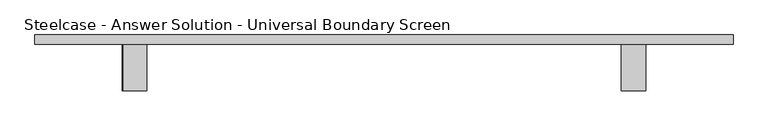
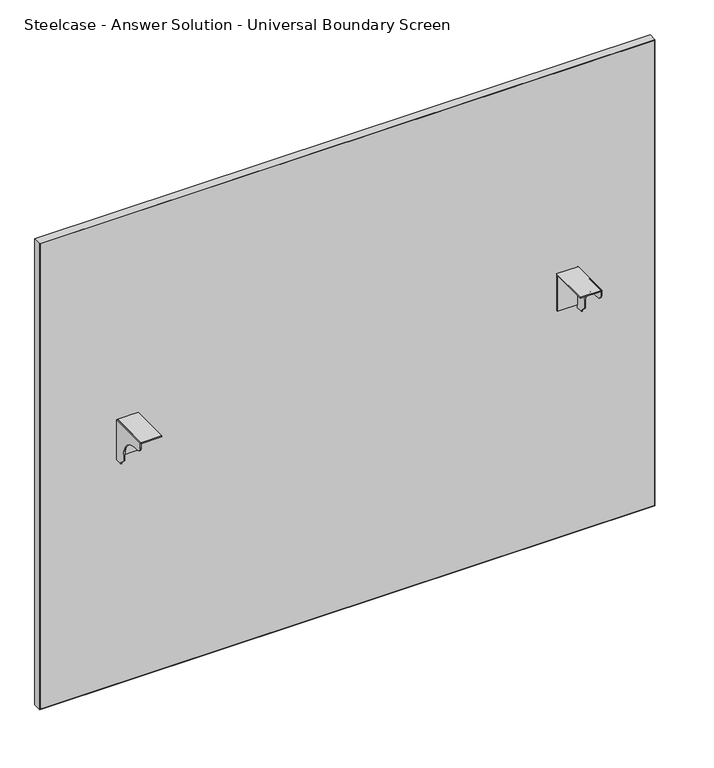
"""IFC4 building model written with IfcOpenShell, lengths in millimetres: furniture geometry, Steelcase - Answer Solution - Universal Boundary Screen : 48H x 60W."""

from ifc_helpers import new_model, si_unit, point, frame, frame_2d, origin, place, context, project, spatial, polyline, circle_curve, trimmed, segment, composite_curve, outline, extrude, source, transform, mapped, element, save


def steelcase_answer_solution_universal_boundary_screen_b5d53eab(model_context):
    return source(origin(), model_context, "Body", "SweptSolid", [
        extrude(outline(polyline([(-103.1670434, 689.3558876), (-103.1670434, 692.1499758), (-1.5668826, 692.1499758), (-1.5668826, 595.5029317), (-4.1079736, 595.5029317), (-4.1079736, 689.3558876), (-103.1670434, 689.3558876)])), frame((1048.2336711, 0.0, 0.0), z_axis=(1.0, 0.0, 0.0), x_axis=(0.0, 1.0, 0.0)), (0.0, 0.0, 1.0), 53.3444116),
        extrude(outline(composite_curve([segment(polyline([(-103.1670434, 679.2814802), (-103.1670434, 692.1499758), (-1.5668826, 692.1499758), (-1.5668826, 586.9634093), (-19.8232934, 586.9634093), (-19.8232934, 589.7574248), (-32.0458032, 601.9799346), (-32.0458032, 615.7814802)]), True, "CONTINUOUS"), segment(trimmed(circle_curve(frame_2d((-82.8458032, 615.7814802)), 50.8), [point((-32.0458032, 615.7814802))], [point((-82.8458032, 666.5814802))], True, "CARTESIAN"), True, "CONTINUOUS"), segment(polyline([(-82.8458032, 666.5814802), (-90.4670434, 666.5814802)]), True, "CONTINUOUS"), segment(trimmed(circle_curve(frame_2d((-90.4670434, 679.2814802)), 12.7), [point((-90.4670434, 666.5814802))], [point((-103.1670434, 679.2814802))], False, "CARTESIAN"), True, "CONTINUOUS")], self_intersect=False)), frame((1099.0328959, 0.0, 0.0), z_axis=(1.0, 0.0, 0.0), x_axis=(0.0, 1.0, 0.0)), (0.0, 0.0, 1.0), 2.5451868),
        extrude(outline(polyline([(-103.1670434, 689.3558876), (-103.1670434, 692.1499758), (-1.5668826, 692.1499758), (-1.5668826, 595.5029317), (-4.1079736, 595.5029317), (-4.1079736, 689.3558876), (-103.1670434, 689.3558876)])), frame((-38.8767306, 0.0, 0.0), z_axis=(1.0, 0.0, 0.0), x_axis=(0.0, 1.0, 0.0)), (0.0, 0.0, 1.0), 50.7992249),
        extrude(outline(composite_curve([segment(polyline([(-103.1670434, 679.2814802), (-103.1670434, 692.1499758), (-1.5668826, 692.1499758), (-1.5668826, 586.9634093), (-19.8232934, 586.9634093), (-19.8232934, 589.7574248), (-32.0458032, 601.9799346), (-32.0458032, 615.7814802)]), True, "CONTINUOUS"), segment(trimmed(circle_curve(frame_2d((-82.8458032, 615.7814802)), 50.8), [point((-32.0458032, 615.7814802))], [point((-82.8458032, 666.5814802))], True, "CARTESIAN"), True, "CONTINUOUS"), segment(polyline([(-82.8458032, 666.5814802), (-90.4670434, 666.5814802)]), True, "CONTINUOUS"), segment(trimmed(circle_curve(frame_2d((-90.4670434, 679.2814802)), 12.7), [point((-90.4670434, 666.5814802))], [point((-103.1670434, 679.2814802))], False, "CARTESIAN"), True, "CONTINUOUS")], self_intersect=False)), frame((-41.4219173, 0.0, 0.0), z_axis=(1.0, 0.0, 0.0), x_axis=(0.0, 1.0, 0.0)), (0.0, 0.0, 1.0), 2.5451868),
        extrude(outline(polyline([(-230.9293422, 18.9055112), (1291.0855076, 18.9055112), (1291.0855076, -1.5668826), (-230.9293422, -1.5668826), (-230.9293422, 18.9055112)])), frame((0.0, 0.0, 1.016), z_axis=(0.0, 0.0, 1.0), x_axis=(1.0, 0.0, 0.0)), (0.0, 0.0, 1.0), 1217.1914249),
        extrude(outline(polyline([(1219.2, 1292.0780827), (1219.2, -231.9219173), (0.0, -231.9219173), (0.0, 1292.0780827), (1219.2, 1292.0780827)]), holes=[polyline([(1218.2074249, 1291.0855076), (1.016, 1291.0855076), (1.016, -230.9293422), (1218.2074249, -230.9293422), (1218.2074249, 1291.0855076)])]), frame((0.0, -1.5668826, 0.0), z_axis=(0.0, 1.0, 0.0), x_axis=(0.0, 0.0, 1.0)), (0.0, 0.0, 1.0), 20.4723938),
    ])


if __name__ == "__main__":
    model = new_model("IFC4")
    model_context = context("Model", 3, world=origin())
    ifc_project = project(units=[si_unit("LENGTHUNIT", "METRE", prefix="MILLI")], contexts=[model_context])
    site = spatial("IfcSite", under=ifc_project)
    building = spatial("IfcBuilding", under=site)
    placement = place(None, origin())
    steelcase_answer_solution_universal_boundary_screen_shape = steelcase_answer_solution_universal_boundary_screen_b5d53eab(model_context)
    element("IfcFurniture", 1, ObjectType="Steelcase - Answer Solution - Universal Boundary Screen : 48H x 60W", at=placement, inside=building, context=model_context, shape_type="MappedRepresentation", body=[
        mapped(steelcase_answer_solution_universal_boundary_screen_shape, transform((0.0, 0.0, 0.0), x_axis=(1.0, 0.0, 0.0), y_axis=(0.0, 1.0, 0.0), z_axis=(0.0, 0.0, 1.0))),
    ])
    save(model, "model.ifc")
